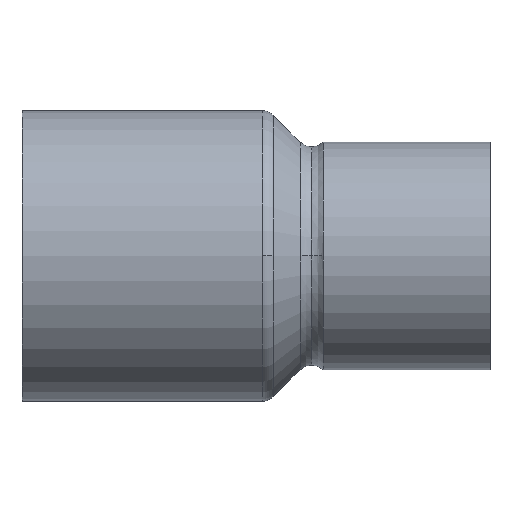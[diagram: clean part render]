
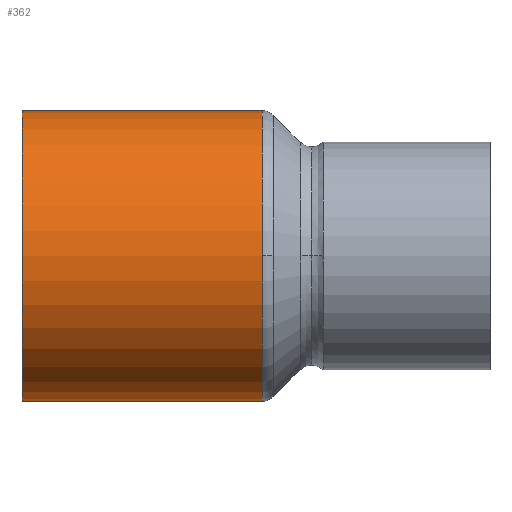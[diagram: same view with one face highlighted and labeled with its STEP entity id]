
A CAD part, top view. The second image highlights one B-rep face of the part: STEP entity #362.
In plain terms, the highlighted cylindrical face has radius 9 mm (diameter 18 mm), a partial arc.
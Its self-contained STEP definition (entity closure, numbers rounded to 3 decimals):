
#312=CARTESIAN_POINT('',(7.437,0.0,0.0));
#313=DIRECTION('',(1.0,0.0,0.0));
#314=DIRECTION('',(0.0,1.0,0.0));
#315=AXIS2_PLACEMENT_3D('',#312,#313,#314);
#316=CYLINDRICAL_SURFACE('',#315,9.);
#317=CARTESIAN_POINT('',(0.,9.0,0.0));
#318=VERTEX_POINT('',#317);
#319=CARTESIAN_POINT('',(14.873,9.,0.0));
#320=VERTEX_POINT('',#319);
#321=CARTESIAN_POINT('',(0.,9.0,0.0));
#322=DIRECTION('',(1.0,0.0,0.0));
#323=VECTOR('',#322,14.873);
#324=LINE('',#321,#323);
#325=EDGE_CURVE('',#318,#320,#324,.T.);
#326=ORIENTED_EDGE('',*,*,#325,.F.);
#327=CARTESIAN_POINT('',(0.,-9.0,0.));
#328=VERTEX_POINT('',#327);
#329=CARTESIAN_POINT('',(0.,0.0,0.0));
#330=DIRECTION('',(1.0,0.0,0.0));
#331=DIRECTION('',(0.0,1.0,0.0));
#332=AXIS2_PLACEMENT_3D('',#329,#330,#331);
#333=CIRCLE('',#332,9.0);
#334=EDGE_CURVE('',#318,#328,#333,.T.);
#335=ORIENTED_EDGE('',*,*,#334,.T.);
#336=CARTESIAN_POINT('',(14.873,-9.,0.));
#337=VERTEX_POINT('',#336);
#338=CARTESIAN_POINT('',(14.873,-9.,0.));
#339=DIRECTION('',(-1.0,0.0,0.0));
#340=VECTOR('',#339,14.873);
#341=LINE('',#338,#340);
#342=EDGE_CURVE('',#337,#328,#341,.T.);
#343=ORIENTED_EDGE('',*,*,#342,.F.);
#344=CARTESIAN_POINT('',(14.873,0.,9.));
#345=VERTEX_POINT('',#344);
#346=CARTESIAN_POINT('',(14.873,0.0,0.0));
#347=DIRECTION('',(1.0,0.0,0.0));
#348=DIRECTION('',(0.0,1.0,0.0));
#349=AXIS2_PLACEMENT_3D('',#346,#347,#348);
#350=CIRCLE('',#349,9.);
#351=EDGE_CURVE('',#345,#337,#350,.T.);
#352=ORIENTED_EDGE('',*,*,#351,.F.);
#353=CARTESIAN_POINT('',(14.873,0.0,0.0));
#354=DIRECTION('',(1.0,0.0,0.0));
#355=DIRECTION('',(0.0,1.0,0.0));
#356=AXIS2_PLACEMENT_3D('',#353,#354,#355);
#357=CIRCLE('',#356,9.);
#358=EDGE_CURVE('',#320,#345,#357,.T.);
#359=ORIENTED_EDGE('',*,*,#358,.F.);
#360=EDGE_LOOP('',(#326,#335,#343,#352,#359));
#361=FACE_OUTER_BOUND('',#360,.T.);
#362=ADVANCED_FACE('',(#361),#316,.T.);
